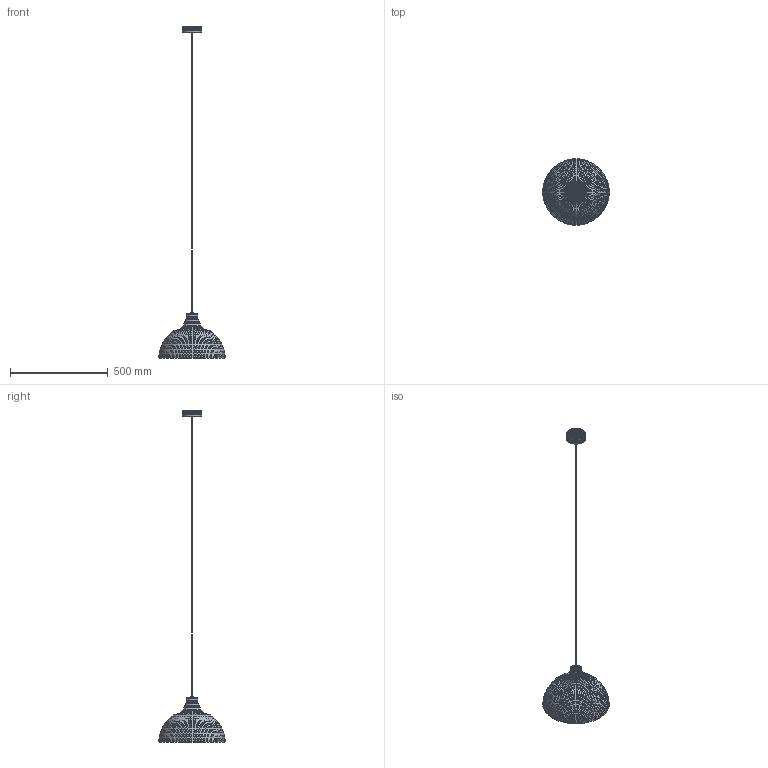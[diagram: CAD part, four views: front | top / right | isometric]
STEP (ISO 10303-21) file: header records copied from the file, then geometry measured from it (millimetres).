
FILE_DESCRIPTION(('FreeCAD Model'),'2;1');
FILE_NAME('Open CASCADE Shape Model','2022-11-28T21:33:12',('Author'),( ''),'Open CASCADE STEP processor 7.6','FreeCAD','Unknown');
FILE_SCHEMA(('AUTOMOTIVE_DESIGN { 1 0 10303 214 1 1 1 1 }'));
Length unit declared in the file: millimetre
Products named in the file (12): Unnamed1; Mesh011 (Solid); Mesh001001 (Solid); Mesh002001 (Solid); Mesh003001 (Solid); Mesh004001 (Solid); Mesh005001 (Solid); Mesh006001 (Solid); Mesh007001 (Solid); Mesh008001 (Solid); Mesh009001 (Solid); Mesh010001 (Solid)
Assembly tree (11 placements, depth 2):
  Unnamed1
    Mesh011 (Solid)
    Mesh001001 (Solid)
    Mesh002001 (Solid)
    Mesh003001 (Solid)
    Mesh004001 (Solid)
    Mesh005001 (Solid)
    Mesh006001 (Solid)
    Mesh007001 (Solid)
    Mesh008001 (Solid)
    Mesh009001 (Solid)
    Mesh010001 (Solid)
Bounding box: 339.86 x 339.86 x 1698.75 mm (x, y, z)
Volume: 881012.8 mm3; surface area: 427806.1 mm2
Topology: 6 solids, 13 shells, 13968 faces, 20976 edges, 7024 vertices
Faces by surface type: plane 13968
Entity records: 545036 total; most frequent: DIRECTION 90792, CARTESIAN_POINT 83836, LINE 62832, VECTOR 62832, ORIENTED_EDGE 41904, PCURVE 41856, DEFINITIONAL_REPRESENTATION 41856, EDGE_CURVE 20976
